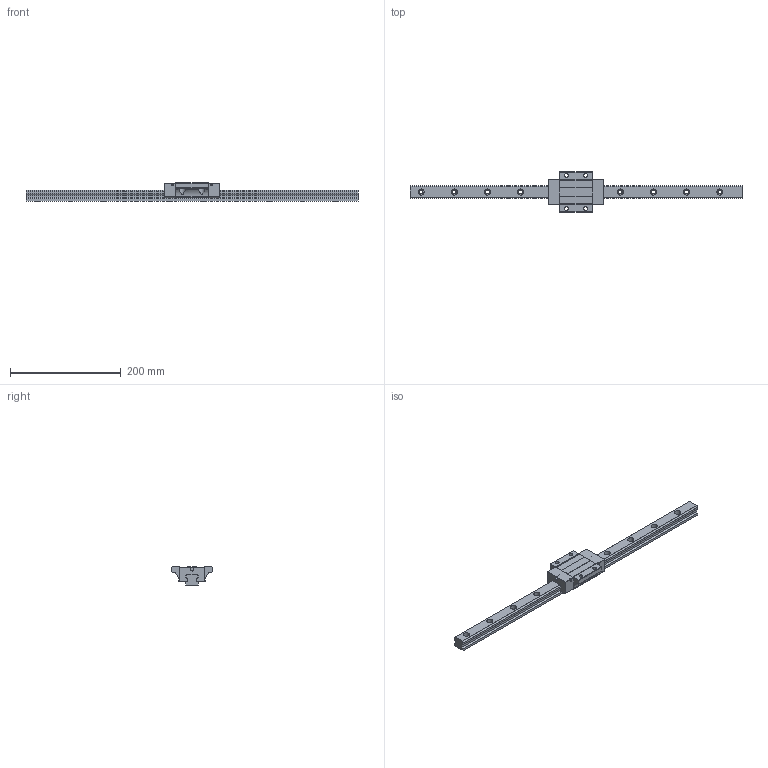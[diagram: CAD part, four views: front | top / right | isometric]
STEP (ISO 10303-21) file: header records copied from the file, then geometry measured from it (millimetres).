
FILE_DESCRIPTION (( 'STEP AP203' ), '1' );
FILE_NAME ('TRS25FN-WZ.STEP', '2024-05-22T03:35:47', ( '' ), ( '' ), 'SwSTEP 2.0', 'SolidWorks 2022', '' );
FILE_SCHEMA (( 'CONFIG_CONTROL_DESIGN' ));
Length unit declared in the file: millimetre
Products named in the file (1): TRS25FN-WZ
Bounding box: 600 x 73 x 33 mm (x, y, z)
Volume: 345446.3 mm3; surface area: 83259.9 mm2
Topology: 2 solids, 2 shells, 230 faces, 614 edges, 400 vertices
Faces by surface type: cylinder 126, plane 100, sphere 4
Entity records: 7971 total; most frequent: CARTESIAN_POINT 1955, DIRECTION 1274, ORIENTED_EDGE 1220, EDGE_CURVE 610, AXIS2_PLACEMENT_3D 459, VERTEX_POINT 400, LINE 356, VECTOR 356
